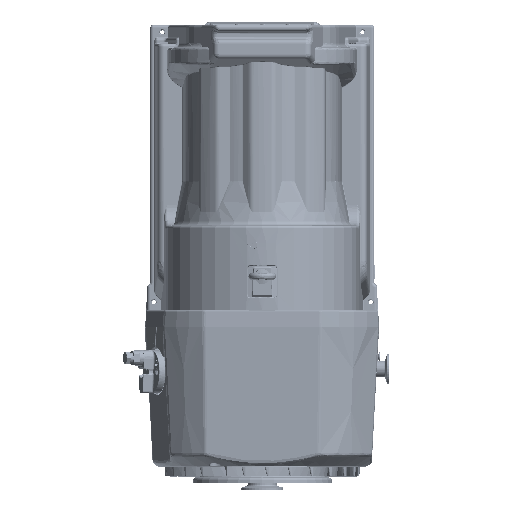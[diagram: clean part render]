
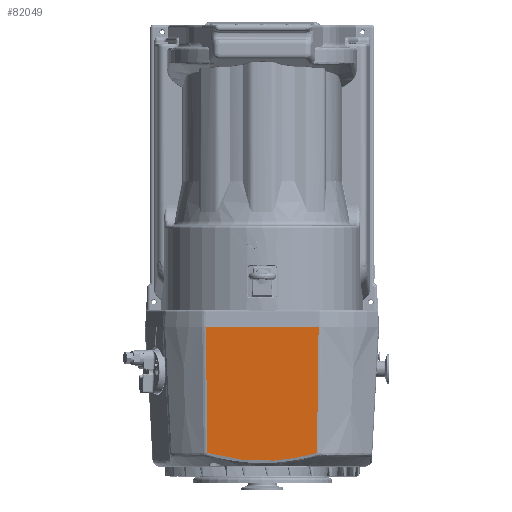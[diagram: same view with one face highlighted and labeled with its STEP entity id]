
A CAD part, top view. The second image highlights one B-rep face of the part: STEP entity #82049.
In plain terms, the highlighted planar face has unit normal (0, -0.052, 0.999) as drawn and (0, 0.999, 0.052) by its records, which use the part's own axes.
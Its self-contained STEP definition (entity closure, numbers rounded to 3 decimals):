
#64635=B_SPLINE_CURVE_WITH_KNOTS('',3,(#639458,#639459,#639460,#639461),
 .UNSPECIFIED.,.F.,.F.,(4,4),(0.,1.),.UNSPECIFIED.);
#64637=B_SPLINE_CURVE_WITH_KNOTS('',3,(#639479,#639480,#639481,#639482),
 .UNSPECIFIED.,.F.,.F.,(4,4),(0.,1.),.UNSPECIFIED.);
#64638=B_SPLINE_CURVE_WITH_KNOTS('',3,(#639484,#639485,#639486,#639487,
#639488,#639489,#639490,#639491,#639492,#639493),.UNSPECIFIED.,.F.,.F.,
(4,2,2,2,4),(0.,0.25,0.5,0.75,1.),.UNSPECIFIED.);
#82049=ADVANCED_FACE('',(#107143),#92816,.T.);
#92816=PLANE('',#367293);
#107143=FACE_OUTER_BOUND('',#127100,.T.);
#127100=EDGE_LOOP('',(#226351,#226352,#226353,#226354));
#147717=LINE('',#635813,#164030);
#164030=VECTOR('',#430427,1.);
#226351=ORIENTED_EDGE('',*,*,#323289,.T.);
#226352=ORIENTED_EDGE('',*,*,#323290,.T.);
#226353=ORIENTED_EDGE('',*,*,#323287,.T.);
#226354=ORIENTED_EDGE('',*,*,#322837,.F.);
#282205=VERTEX_POINT('',#635812);
#282206=VERTEX_POINT('',#635814);
#282542=VERTEX_POINT('',#639462);
#282543=VERTEX_POINT('',#639483);
#322837=EDGE_CURVE('',#282205,#282206,#147717,.T.);
#323287=EDGE_CURVE('',#282542,#282206,#64635,.T.);
#323289=EDGE_CURVE('',#282205,#282543,#64637,.T.);
#323290=EDGE_CURVE('',#282543,#282542,#64638,.T.);
#367293=AXIS2_PLACEMENT_3D('',#639494,#430995,#430996);
#430427=DIRECTION('',(1.,0.,0.));
#430995=DIRECTION('',(0.,0.999,0.052));
#430996=DIRECTION('',(0.,0.052,-0.999));
#635812=CARTESIAN_POINT('',(-74.847,162.144,1.624));
#635813=CARTESIAN_POINT('',(-77.978,162.144,1.624));
#635814=CARTESIAN_POINT('',(71.652,162.144,1.624));
#639458=CARTESIAN_POINT('',(69.538,153.585,164.936));
#639459=CARTESIAN_POINT('',(70.253,156.438,110.499));
#639460=CARTESIAN_POINT('',(70.957,159.291,56.062));
#639461=CARTESIAN_POINT('',(71.652,162.144,1.624));
#639462=CARTESIAN_POINT('',(69.538,153.585,164.936));
#639479=CARTESIAN_POINT('',(-74.847,162.144,1.624));
#639480=CARTESIAN_POINT('',(-74.152,159.291,56.062));
#639481=CARTESIAN_POINT('',(-73.448,156.438,110.499));
#639482=CARTESIAN_POINT('',(-72.733,153.585,164.936));
#639483=CARTESIAN_POINT('',(-72.733,153.585,164.936));
#639484=CARTESIAN_POINT('',(-72.733,153.585,164.936));
#639485=CARTESIAN_POINT('',(-61.093,153.418,168.115));
#639486=CARTESIAN_POINT('',(-49.296,153.281,170.727));
#639487=CARTESIAN_POINT('',(-25.64,153.094,174.297));
#639488=CARTESIAN_POINT('',(-13.749,153.044,175.257));
#639489=CARTESIAN_POINT('',(10.181,153.043,175.277));
#639490=CARTESIAN_POINT('',(22.29,153.093,174.317));
#639491=CARTESIAN_POINT('',(46.12,153.281,170.727));
#639492=CARTESIAN_POINT('',(57.882,153.418,168.119));
#639493=CARTESIAN_POINT('',(69.538,153.585,164.936));
#639494=CARTESIAN_POINT('',(78.744,152.724,181.362));
